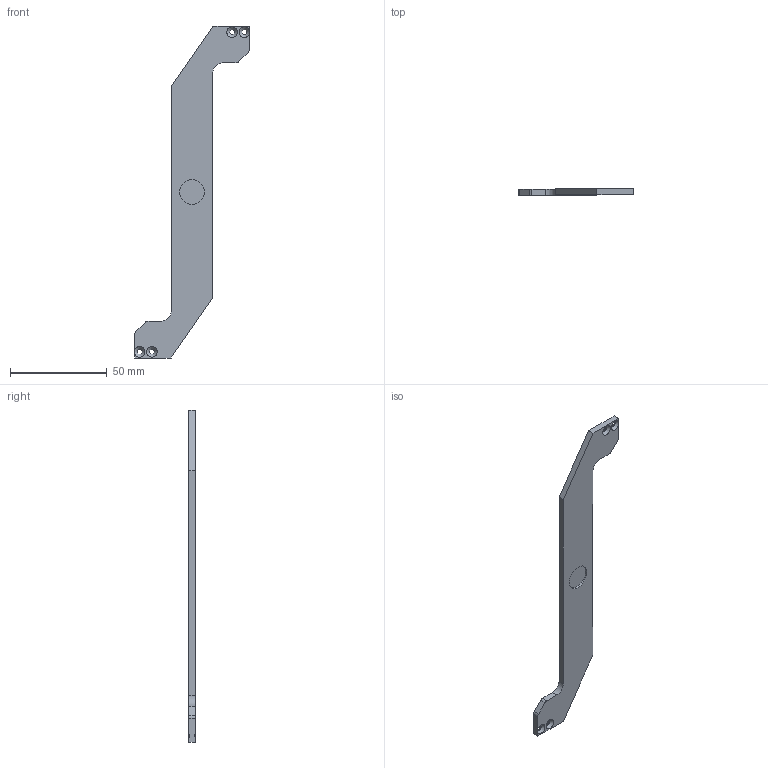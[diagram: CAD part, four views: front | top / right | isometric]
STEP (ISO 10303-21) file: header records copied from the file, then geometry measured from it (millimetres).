
FILE_DESCRIPTION(/* description */ (''),/* implementation_level */ '2;1');
FILE_NAME(/* name */ 'D:\PRJ\70cm Combiner\M-CAD\Stripline.stp',/* time_stamp */ '2025-02-18T05:20:04+01:00',/* author */ ('Carsten Grøn'),/* organization */ (''),/* preprocessor_version */ 'ST-DEVELOPER v18',/* originating_system */ 'Autodesk Inventor 2020',/* authorisation */ '');
FILE_SCHEMA (('CONFIG_CONTROL_DESIGN'));
Length unit declared in the file: millimetre
Products named in the file (1): Stripline
Bounding box: 59.13 x 3.17 x 171.4 mm (x, y, z)
Volume: 11386.3 mm3; surface area: 8878.9 mm2
Topology: 1 solids, 1 shells, 36 faces, 116 edges, 80 vertices
Faces by surface type: plane 16, cylinder 12, cone 8
Full cylindrical faces by diameter (mm): 2.7 x4, 12.8 x2
Entity records: 1369 total; most frequent: CARTESIAN_POINT 241, DIRECTION 238, ORIENTED_EDGE 232, EDGE_CURVE 116, AXIS2_PLACEMENT_3D 89, VERTEX_POINT 80, LINE 60, VECTOR 60
